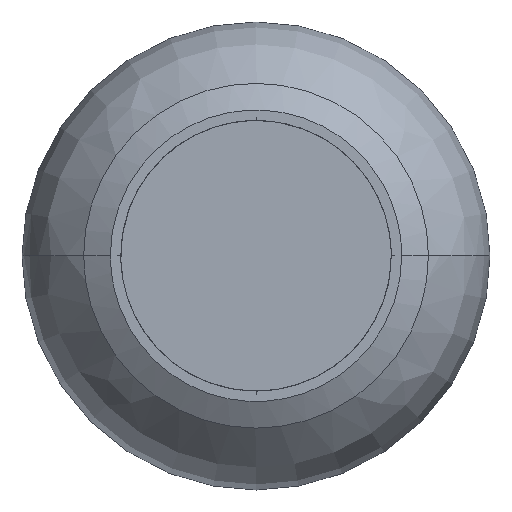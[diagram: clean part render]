
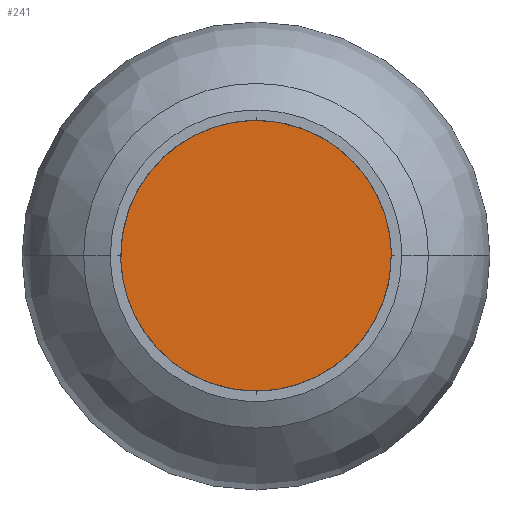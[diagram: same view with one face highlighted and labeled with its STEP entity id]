
A CAD part, top view. The second image highlights one B-rep face of the part: STEP entity #241.
In plain terms, the highlighted planar face has unit normal (0, 0, 1).
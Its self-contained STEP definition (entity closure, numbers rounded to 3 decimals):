
#241=ADVANCED_FACE('',(#405),#2619,.T.);
#405=FACE_OUTER_BOUND('',#588,.T.);
#588=EDGE_LOOP('',(#1403,#1404));
#1403=ORIENTED_EDGE('',*,*,#1821,.F.);
#1404=ORIENTED_EDGE('',*,*,#1818,.F.);
#1818=EDGE_CURVE('',#2510,#2511,#2238,.T.);
#1821=EDGE_CURVE('',#2511,#2510,#2241,.T.);
#2238=(
BOUNDED_CURVE()
B_SPLINE_CURVE(2,(#9305,#9306,#9307,#9308,#9309),.UNSPECIFIED.,.F.,.F.)
B_SPLINE_CURVE_WITH_KNOTS((3,2,3),(0.,188.458,376.916),
 .UNSPECIFIED.)
CURVE()
GEOMETRIC_REPRESENTATION_ITEM()
RATIONAL_B_SPLINE_CURVE((1.,0.707,1.,0.707,1.))
REPRESENTATION_ITEM('')
);
#2241=(
BOUNDED_CURVE()
B_SPLINE_CURVE(2,(#9316,#9317,#9318,#9319,#9320),.UNSPECIFIED.,.F.,.F.)
B_SPLINE_CURVE_WITH_KNOTS((3,2,3),(0.,188.458,376.916),
 .UNSPECIFIED.)
CURVE()
GEOMETRIC_REPRESENTATION_ITEM()
RATIONAL_B_SPLINE_CURVE((1.,0.707,1.,0.707,1.))
REPRESENTATION_ITEM('')
);
#2510=VERTEX_POINT('',#9272);
#2511=VERTEX_POINT('',#9273);
#2619=PLANE('',#2731);
#2731=AXIS2_PLACEMENT_3D('',#9265,#2771,$);
#2771=DIRECTION('',(0.,0.,1.));
#9265=CARTESIAN_POINT('',(-143.972,-143.972,421.));
#9272=CARTESIAN_POINT('',(0.,119.976,421.));
#9273=CARTESIAN_POINT('',(0.,-119.976,421.));
#9305=CARTESIAN_POINT('',(0.,119.976,421.));
#9306=CARTESIAN_POINT('',(119.976,119.976,421.));
#9307=CARTESIAN_POINT('',(119.976,0.,421.));
#9308=CARTESIAN_POINT('',(119.976,-119.976,421.));
#9309=CARTESIAN_POINT('',(0.,-119.976,421.));
#9316=CARTESIAN_POINT('',(0.,-119.976,421.));
#9317=CARTESIAN_POINT('',(-119.976,-119.976,421.));
#9318=CARTESIAN_POINT('',(-119.976,0.,421.));
#9319=CARTESIAN_POINT('',(-119.976,119.976,421.));
#9320=CARTESIAN_POINT('',(0.,119.976,421.));
